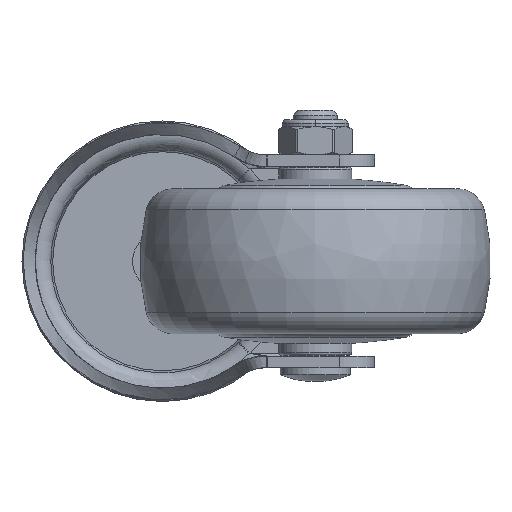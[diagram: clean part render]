
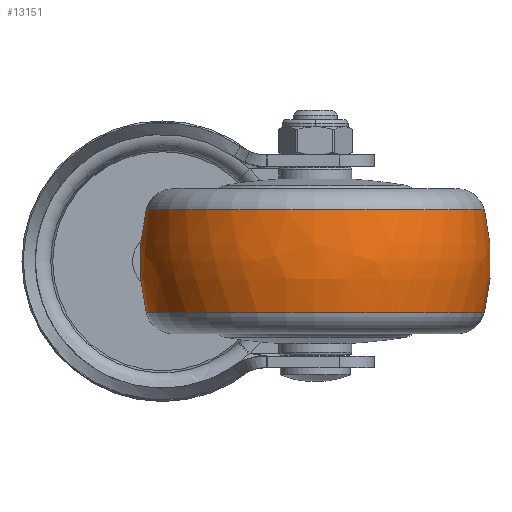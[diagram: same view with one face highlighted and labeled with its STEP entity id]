
A CAD part, front view. The second image highlights one B-rep face of the part: STEP entity #13151.
In plain terms, the highlighted free-form (B-spline) face has degree [3, 3] with [7, 4] control points.
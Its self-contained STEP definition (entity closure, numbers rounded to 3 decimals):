
#12460=CARTESIAN_POINT('',(-10.962,0.,0.));
#12461=DIRECTION('',(-1.,0.,0.));
#12462=DIRECTION('',(0.,1.,0.));
#12463=AXIS2_PLACEMENT_3D('',#12460,#12461,#12462);
#12475=CARTESIAN_POINT('',(0.,-7.5,0.));
#12476=DIRECTION('',(0.,0.,1.));
#12477=DIRECTION('',(0.244,0.97,0.));
#12478=AXIS2_PLACEMENT_3D('',#12475,#12476,#12477);
#12480=CARTESIAN_POINT('',(0.,7.5,0.));
#12481=DIRECTION('',(0.,0.,-1.));
#12482=DIRECTION('',(0.244,-0.97,0.));
#12483=AXIS2_PLACEMENT_3D('',#12480,#12481,#12482);
#12485=CARTESIAN_POINT('',(10.962,0.,0.));
#12486=DIRECTION('',(-1.,0.,0.));
#12487=DIRECTION('',(0.,1.,0.));
#12488=AXIS2_PLACEMENT_3D('',#12485,#12486,#12487);
#12725=CARTESIAN_POINT('',(10.962,36.145,0.));
#12727=VERTEX_POINT('',#12725);
#12728=CARTESIAN_POINT('',(-10.962,36.145,0.));
#12729=VERTEX_POINT('',#12728);
#12773=CARTESIAN_POINT('',(10.962,-36.145,0.));
#12775=VERTEX_POINT('',#12773);
#12776=CARTESIAN_POINT('',(-10.962,-36.145,0.));
#12777=VERTEX_POINT('',#12776);
#13115=CARTESIAN_POINT('',(-11.391,-35.963,
2.263));
#13116=CARTESIAN_POINT('',(-3.881,-37.924,
2.386));
#13117=CARTESIAN_POINT('',(3.881,-37.924,
2.386));
#13118=CARTESIAN_POINT('',(11.391,-35.963,
2.263));
#13119=CARTESIAN_POINT('',(-11.391,-37.356,
-19.869));
#13120=CARTESIAN_POINT('',(-3.881,-39.393,
-20.953));
#13121=CARTESIAN_POINT('',(3.881,-39.393,
-20.953));
#13122=CARTESIAN_POINT('',(11.391,-37.356,
-19.869));
#13123=CARTESIAN_POINT('',(-11.391,-22.176,
-36.035));
#13124=CARTESIAN_POINT('',(-3.881,-23.385,
-37.999));
#13125=CARTESIAN_POINT('',(3.881,-23.385,
-37.999));
#13126=CARTESIAN_POINT('',(11.391,-22.176,
-36.035));
#13127=CARTESIAN_POINT('',(-11.391,0.,-36.035));
#13128=CARTESIAN_POINT('',(-3.881,0.,-37.999));
#13129=CARTESIAN_POINT('',(3.881,0.,-37.999));
#13130=CARTESIAN_POINT('',(11.391,0.,-36.035));
#13131=CARTESIAN_POINT('',(-11.391,22.176,
-36.035));
#13132=CARTESIAN_POINT('',(-3.881,23.385,
-37.999));
#13133=CARTESIAN_POINT('',(3.881,23.385,
-37.999));
#13134=CARTESIAN_POINT('',(11.391,22.176,
-36.035));
#13135=CARTESIAN_POINT('',(-11.391,37.356,
-19.869));
#13136=CARTESIAN_POINT('',(-3.881,39.393,
-20.953));
#13137=CARTESIAN_POINT('',(3.881,39.393,
-20.953));
#13138=CARTESIAN_POINT('',(11.391,37.356,
-19.869));
#13139=CARTESIAN_POINT('',(-11.391,35.963,
2.263));
#13140=CARTESIAN_POINT('',(-3.881,37.924,
2.386));
#13141=CARTESIAN_POINT('',(3.881,37.924,2.386));
#13142=CARTESIAN_POINT('',(11.391,35.963,2.263));
#13143=(BOUNDED_SURFACE()B_SPLINE_SURFACE(3,3,((#13115,#13116,#13117,#13118),(
#13119,#13120,#13121,#13122),(#13123,#13124,#13125,#13126),(#13127,#13128,
#13129,#13130),(#13131,#13132,#13133,#13134),(#13135,#13136,#13137,#13138),(
#13139,#13140,#13141,#13142)),.UNSPECIFIED.,.F.,.F.,.F.)B_SPLINE_SURFACE_WITH_KNOTS((4,3,4),(4,4),(0.,1.,2.),(0.,1.),.UNSPECIFIED.)GEOMETRIC_REPRESENTATION_ITEM()RATIONAL_B_SPLINE_SURFACE(((1.207,1.181,
1.181,1.207),(0.953,0.932,
0.932,0.953),(0.953,0.932,
0.932,0.953),(1.207,1.181,
1.181,1.207),(0.953,0.932,
0.932,0.953),(0.953,0.932,
0.932,0.953),(1.207,1.181,
1.181,1.207)))REPRESENTATION_ITEM('')SURFACE());
#13144=ORIENTED_EDGE('',*,*,#13105,.T.);
#13145=ORIENTED_EDGE('',*,*,#13058,.T.);
#13146=ORIENTED_EDGE('',*,*,#13109,.F.);
#13148=ORIENTED_EDGE('',*,*,#13147,.F.);
#13149=EDGE_LOOP('',(#13144,#13145,#13146,#13148));
#13150=FACE_OUTER_BOUND('',#13149,.F.);
#12464=CIRCLE('',#12463,36.145);
#12479=CIRCLE('',#12478,45.);
#12484=CIRCLE('',#12483,45.);
#12489=CIRCLE('',#12488,36.145);
#13058=EDGE_CURVE('',#12729,#12777,#12464,.T.);
#13105=EDGE_CURVE('',#12727,#12729,#12479,.T.);
#13109=EDGE_CURVE('',#12775,#12777,#12484,.T.);
#13147=EDGE_CURVE('',#12727,#12775,#12489,.T.);
#13151=ADVANCED_FACE('',(#13150),#13143,.T.);
